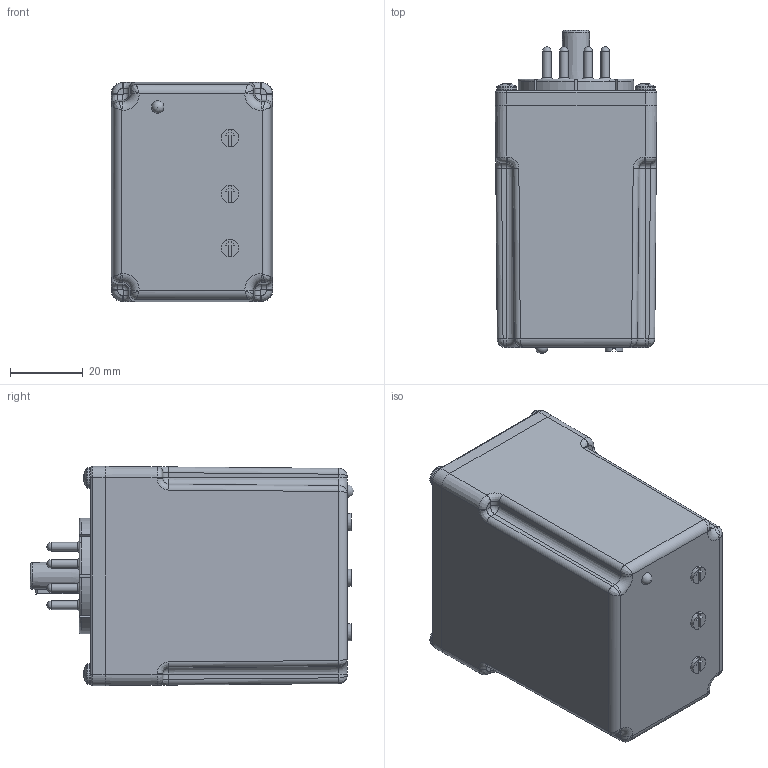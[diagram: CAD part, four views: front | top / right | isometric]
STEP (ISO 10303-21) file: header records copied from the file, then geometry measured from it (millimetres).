
FILE_DESCRIPTION(('FreeCAD Model'),'2;1');
FILE_NAME('Open CASCADE Shape Model','2023-06-06T13:53:09',(''),(''), 'Open CASCADE STEP processor 7.6','FreeCAD','Unknown');
FILE_SCHEMA(('AUTOMOTIVE_DESIGN { 1 0 10303 214 1 1 1 1 }'));
Products named in the file (1): Compound
Bounding box: 44.45 x 88.95 x 60.33 mm (x, y, z)
Surface area: 43685.2 mm2 (no closed solid volume)
Topology: 0 solids, 22 shells, 1886 faces, 4831 edges, 2999 vertices
Faces by surface type: plane 726, cylinder 685, bspline 200, torus 121, cone 57, sphere 57, revolution 40
Full cylindrical faces by diameter (mm): 0.254 x16, 1.257 x8, 1.714 x8, 1.905 x16, 2.362 x16, 2.464 x8, 3.175 x4, 4.191 x8, 4.83 x3, 7.925 x1
Entity records: 176523 total; most frequent: CARTESIAN_POINT 85530, DIRECTION 15583, ORIENTED_EDGE 9516, PCURVE 9516, DEFINITIONAL_REPRESENTATION 9516, LINE 9308, VECTOR 9308, EDGE_CURVE 4766
